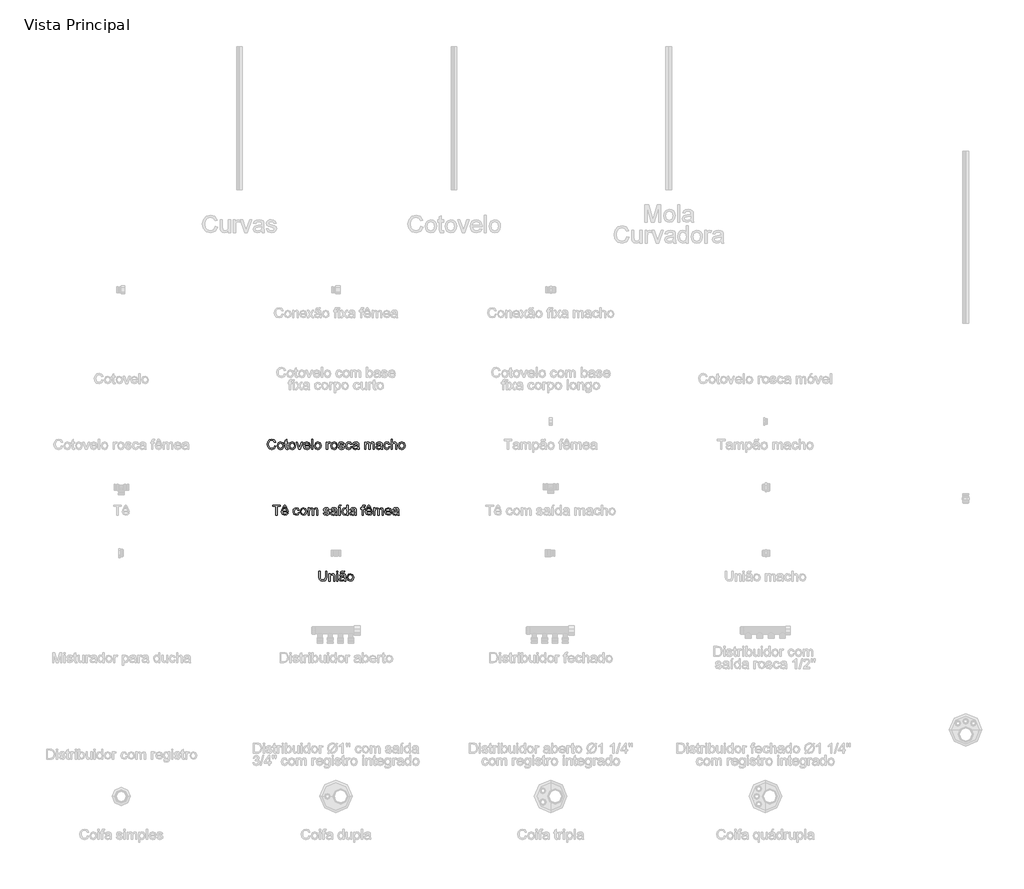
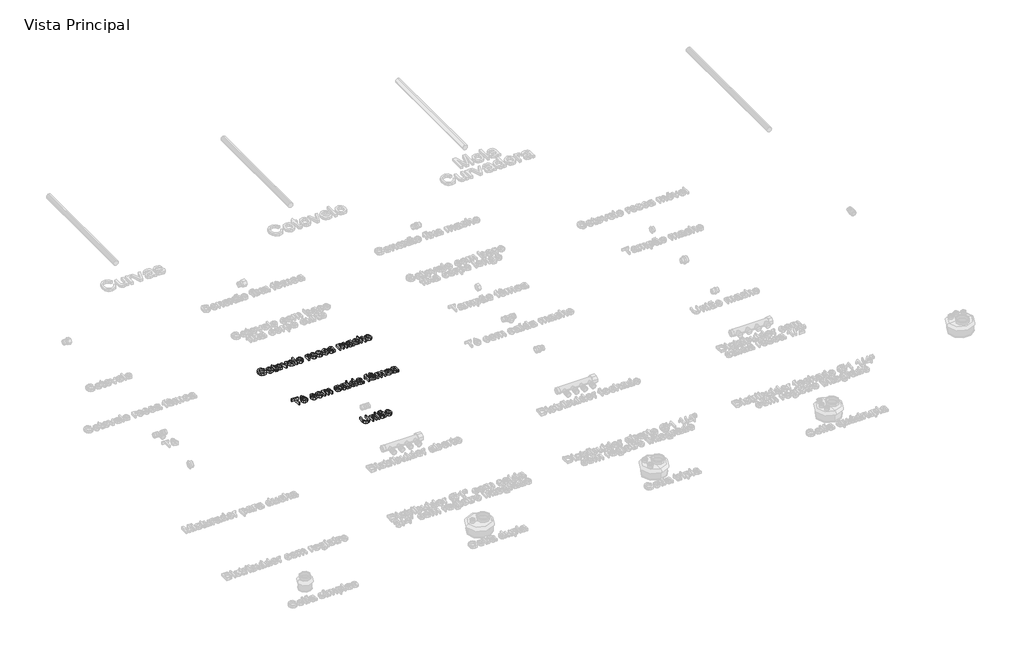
# One storey, part 6 of 12: 3 proxies.
"""IFC4 building model written with IfcOpenShell, lengths in millimetres."""

from ifc_helpers import new_model, si_unit, origin, origin_with_axes, place, context, project, spatial, polyline, outline, extrude, element, save

model = new_model("IFC4")

# Units and contexts
model_context = context("Model", 3, world=origin())
ifc_project = project(units=[si_unit("LENGTHUNIT", "METRE", prefix="MILLI")], contexts=[model_context])

# Site, building, storey
site = spatial("IfcSite", under=ifc_project)
building = spatial("IfcBuilding", under=site)
storey = spatial("IfcBuildingStorey", under=building, Name="Vista Principal", Elevation=0.0)

# Proxies
placement = place(None, origin())
element("IfcBuildingElementProxy", 1, Name="Legenda", ObjectType="Legenda", at=placement, inside=storey, context=model_context, shape_type="SweptSolid", body=[
    extrude(outline(polyline([(-545.117391, -474.518665), (-540.7224274, -475.6517416), (-545.9328628, -484.514632), (-555.1348177, -487.5662131), (-564.2809773, -485.2571405), (-569.645923, -478.5702721), (-571.4871724, -469.1708871), (-569.4055735, -459.6169917), (-563.4869653, -453.4236983), (-555.0403947, -451.3077637), (-546.2375917, -454.046032), (-541.2717979, -461.7543861), (-545.6667615, -462.8016235), (-549.272005, -457.3980501), (-555.212073, -455.7027273), (-562.0877874, -457.5826042), (-565.9720082, -462.6299452), (-567.0922089, -469.1623032), (-565.7659943, -476.7333146), (-561.637132, -481.5703497), (-555.5725973, -483.1712496), (-548.8471013, -480.9909356), (-545.117391, -474.518665)])), origin_with_axes(), (0.0, 0.0, 1.0), 10.0),
    extrude(outline(polyline([(-536.3274639, -474.1066372), (-532.5247903, -463.5055044), (-524.7821006, -460.6470613), (-516.4771645, -464.1278381), (-513.2539051, -473.7461128), (-514.6788347, -481.5660578), (-518.8291568, -485.9910651), (-524.7821006, -487.5662131), (-533.1385401, -484.0983122), (-536.3274639, -474.1066372)]), holes=[polyline([(-531.9325003, -474.0980533), (-529.8981129, -480.9093884), (-524.7821006, -483.1712496), (-519.6832561, -480.8965126), (-517.6488687, -473.9607107), (-519.696132, -467.303886), (-524.7821006, -465.0420248), (-529.8981129, -467.2953021), (-531.9325003, -474.0980533)])]), origin_with_axes(), (0.0, 0.0, 1.0), 10.0),
    extrude(outline(polyline([(-498.9702735, -483.3515117), (-498.4209031, -487.1456014), (-501.7085419, -487.5662131), (-505.3910406, -486.8365805), (-507.2279981, -484.9223679), (-507.7602007, -479.9351143), (-507.7602007, -465.5913953), (-511.0564233, -465.5913953), (-511.0564233, -461.1964317), (-507.7602007, -461.1964317), (-507.7602007, -454.9215911), (-503.3652371, -452.3378333), (-503.3652371, -461.1964317), (-498.9702735, -461.1964317), (-498.9702735, -465.5913953), (-503.3652371, -465.5913953), (-503.3652371, -479.8063556), (-503.1334714, -482.0725087), (-498.9702735, -483.3515117)])), origin_with_axes(), (0.0, 0.0, 1.0), 10.0),
    extrude(outline(polyline([(-495.6740509, -474.1066372), (-491.8713773, -463.5055044), (-484.1286876, -460.6470613), (-475.8237515, -464.1278381), (-472.6004921, -473.7461128), (-474.0254217, -481.5660578), (-478.1757438, -485.9910651), (-484.1286876, -487.5662131), (-492.4851271, -484.0983122), (-495.6740509, -474.1066372)]), holes=[polyline([(-491.2790873, -474.0980533), (-489.2446999, -480.9093884), (-484.1286876, -483.1712496), (-479.0298431, -480.8965126), (-476.9954557, -473.9607107), (-479.042719, -467.303886), (-484.1286876, -465.0420248), (-489.2446999, -467.2953021), (-491.2790873, -474.0980533)])]), origin_with_axes(), (0.0, 0.0, 1.0), 10.0),
    extrude(outline(polyline([(-461.3212301, -487.0168427), (-470.4030103, -461.1964317), (-465.7505294, -461.1964317), (-460.248241, -476.6646433), (-458.5915457, -481.8664947), (-456.9691861, -476.9564964), (-451.4325621, -461.1964317), (-446.7800812, -461.1964317), (-455.7502705, -487.0168427), (-461.3212301, -487.0168427)])), origin_with_axes(), (0.0, 0.0, 1.0), 10.0),
    extrude(outline(polyline([(-424.8567668, -479.3256564), (-420.5476423, -479.8750269), (-424.5777896, -485.5489935), (-432.0844217, -487.5662131), (-441.2091215, -484.0854363), (-444.5825994, -474.321235), (-441.1747858, -464.235137), (-432.3333552, -460.6470613), (-423.74515, -464.2265531), (-420.4102997, -474.2954833), (-440.1876358, -475.4800633), (-437.6596734, -481.1883656), (-431.9985826, -483.1712496), (-427.6894581, -482.2527708), (-424.8567668, -479.3256564)]), holes=[polyline([(-440.1876358, -471.0850997), (-424.8052633, -471.0850997), (-426.5649655, -467.102164), (-432.350523, -465.0420248), (-437.7626803, -466.6858442), (-440.1876358, -471.0850997)])]), origin_with_axes(), (0.0, 0.0, 1.0), 10.0),
    extrude(outline(polyline([(-416.0153362, -487.0168427), (-416.0153362, -451.8571341), (-411.6203726, -451.8571341), (-411.6203726, -487.0168427), (-416.0153362, -487.0168427)])), origin_with_axes(), (0.0, 0.0, 1.0), 10.0),
    extrude(outline(polyline([(-406.1266681, -474.1066372), (-402.3239946, -463.5055044), (-394.5813049, -460.6470613), (-386.2763688, -464.1278381), (-383.0531094, -473.7461128), (-384.478039, -481.5660578), (-388.628361, -485.9910651), (-394.5813049, -487.5662131), (-402.9377444, -484.0983122), (-406.1266681, -474.1066372)]), holes=[polyline([(-401.7317046, -474.0980533), (-399.6973171, -480.9093884), (-394.5813049, -483.1712496), (-389.4824604, -480.8965126), (-387.448073, -473.9607107), (-389.4953363, -467.303886), (-394.5813049, -465.0420248), (-399.6973171, -467.2953021), (-401.7317046, -474.0980533)])]), origin_with_axes(), (0.0, 0.0, 1.0), 10.0),
    extrude(outline(polyline([(-364.3745142, -487.0168427), (-364.3745142, -461.1964317), (-360.5289211, -461.1964317), (-360.5289211, -465.0162731), (-357.7992367, -461.4968687), (-355.0523845, -460.6470613), (-350.6402531, -462.0033196), (-352.1081022, -465.9433357), (-355.198311, -465.0420248), (-357.6833539, -465.9090001), (-359.2670859, -468.3124958), (-359.9795507, -473.4456759), (-359.9795507, -487.0168427), (-364.3745142, -487.0168427)])), origin_with_axes(), (0.0, 0.0, 1.0), 10.0),
    extrude(outline(polyline([(-348.9921417, -474.1066372), (-345.1894682, -463.5055044), (-337.4467785, -460.6470613), (-329.1418424, -464.1278381), (-325.918583, -473.7461128), (-327.3435126, -481.5660578), (-331.4938346, -485.9910651), (-337.4467785, -487.5662131), (-345.803218, -484.0983122), (-348.9921417, -474.1066372)]), holes=[polyline([(-344.5971782, -474.0980533), (-342.5627907, -480.9093884), (-337.4467785, -483.1712496), (-332.347934, -480.8965126), (-330.3135466, -473.9607107), (-332.3608099, -467.303886), (-337.4467785, -465.0420248), (-342.5627907, -467.2953021), (-344.5971782, -474.0980533)])]), origin_with_axes(), (0.0, 0.0, 1.0), 10.0),
    extrude(outline(polyline([(-322.6223603, -479.3256564), (-318.2273968, -478.776286), (-316.1930093, -482.038173), (-311.5319444, -483.1712496), (-307.0511417, -482.1325961), (-305.5918765, -479.6947647), (-307.0597257, -477.7204647), (-311.5834479, -476.4672133), (-318.201645, -474.3169431), (-321.0901318, -471.8061485), (-322.0729899, -468.2609923), (-321.2832699, -464.9862294), (-319.1287076, -462.4840187), (-316.3346439, -461.1835558), (-312.5534301, -460.6470613), (-307.2056522, -461.5097445), (-303.8064225, -463.8445689), (-302.2956538, -467.7888771), (-306.6906174, -468.3382475), (-308.3430207, -465.913292), (-312.2100736, -465.0420248), (-316.4161911, -465.8746644), (-317.6780263, -467.8146288), (-315.5148802, -470.0636141), (-311.7293744, -470.9992606), (-305.2785637, -473.0679837), (-302.2827779, -475.411392), (-301.1969129, -479.2312334), (-302.471624, -483.4373509), (-306.1498309, -486.488932), (-311.5920318, -487.5662131), (-319.2574663, -485.4889061), (-322.6223603, -479.3256564)])), origin_with_axes(), (0.0, 0.0, 1.0), 10.0),
    extrude(outline(polyline([(-279.7714655, -477.6775451), (-275.376502, -478.2269155), (-278.9044903, -485.0897542), (-285.8746278, -487.5662131), (-294.2053156, -484.1111881), (-297.3513198, -474.2010602), (-296.0079374, -466.900442), (-291.9134108, -462.2093335), (-285.9347152, -460.6470613), (-279.2521388, -462.7930396), (-275.9258724, -468.887618), (-280.320836, -469.4369884), (-282.3595154, -466.1450577), (-285.9003796, -465.0420248), (-290.9949321, -467.2137549), (-292.9563562, -474.0808855), (-291.0378516, -481.0123954), (-286.0205544, -483.1712496), (-281.8788162, -481.8235752), (-279.7714655, -477.6775451)])), origin_with_axes(), (0.0, 0.0, 1.0), 10.0),
    extrude(outline(polyline([(-255.0497955, -483.72062), (-259.3117084, -486.6992379), (-264.0199848, -487.5662131), (-270.4021242, -485.4803222), (-272.6296497, -480.1497121), (-271.7884262, -476.6732273), (-269.5780686, -474.1495568), (-266.5007357, -472.7074593), (-262.6980621, -472.046498), (-255.0755472, -470.5357293), (-256.2601272, -466.312444), (-261.1186221, -465.0420248), (-265.5650891, -465.8875403), (-267.6853157, -468.887618), (-272.0802793, -468.3382475), (-270.1789425, -464.0462909), (-266.3505172, -461.5312043), (-260.5520838, -460.6470613), (-255.2257657, -461.4281974), (-252.2171041, -463.3896215), (-250.8694297, -466.3725314), (-250.6548319, -470.2181245), (-250.6548319, -475.6860772), (-250.4316501, -483.321468), (-249.556091, -487.0168427), (-253.9510546, -487.0168427), (-255.0497955, -483.72062)]), holes=[polyline([(-255.0626713, -475.5530266), (-262.1401078, -476.2783672), (-265.9213215, -476.990832), (-267.6338122, -478.1496603), (-268.2346862, -479.8406912), (-266.9256394, -482.2184352), (-263.0843382, -483.1712496), (-258.6378712, -482.1197202), (-255.7708442, -479.5745899), (-255.0626713, -475.5530266)])]), origin_with_axes(), (0.0, 0.0, 1.0), 10.0),
    extrude(outline(polyline([(-230.8774958, -487.0168427), (-230.8774958, -461.1964317), (-226.4825323, -461.1964317), (-226.4825323, -465.4454688), (-223.4609948, -461.9646919), (-219.1604543, -460.6470613), (-214.7569068, -461.9904437), (-212.3362433, -465.7544896), (-204.5763857, -460.6470613), (-198.8294558, -462.7715798), (-196.8165282, -469.3168136), (-196.8165282, -487.0168427), (-201.2114917, -487.0168427), (-201.2114917, -471.2052745), (-201.6192276, -467.5356516), (-203.0956607, -465.7287379), (-205.6064553, -465.0420248), (-209.9284556, -466.801727), (-211.6495302, -472.441358), (-211.6495302, -487.0168427), (-216.0444938, -487.0168427), (-216.0444938, -470.7159915), (-217.0616875, -466.4583705), (-220.3965378, -465.0420248), (-223.6498409, -465.9862553), (-225.812987, -468.7502753), (-226.4825323, -473.9950463), (-226.4825323, -487.0168427), (-230.8774958, -487.0168427)])), origin_with_axes(), (0.0, 0.0, 1.0), 10.0),
    extrude(outline(polyline([(-173.7429694, -483.72062), (-178.0048823, -486.6992379), (-182.7131587, -487.5662131), (-189.0952982, -485.4803222), (-191.3228237, -480.1497121), (-190.4816002, -476.6732273), (-188.2712425, -474.1495568), (-185.1939097, -472.7074593), (-181.3912361, -472.046498), (-173.7687212, -470.5357293), (-174.9533012, -466.312444), (-179.8117961, -465.0420248), (-184.2582631, -465.8875403), (-186.3784897, -468.887618), (-190.7734533, -468.3382475), (-188.8721165, -464.0462909), (-185.0436912, -461.5312043), (-179.2452578, -460.6470613), (-173.9189396, -461.4281974), (-170.9102781, -463.3896215), (-169.5626037, -466.3725314), (-169.3480059, -470.2181245), (-169.3480059, -475.6860772), (-169.1248241, -483.321468), (-168.249265, -487.0168427), (-172.6442285, -487.0168427), (-173.7429694, -483.72062)]), holes=[polyline([(-173.7558453, -475.5530266), (-180.8332817, -476.2783672), (-184.6144955, -476.990832), (-186.3269862, -478.1496603), (-186.9278601, -479.8406912), (-185.6188134, -482.2184352), (-181.7775122, -483.1712496), (-177.3310451, -482.1197202), (-174.4640181, -479.5745899), (-173.7558453, -475.5530266)])]), origin_with_axes(), (0.0, 0.0, 1.0), 10.0),
    extrude(outline(polyline([(-146.8238176, -477.6775451), (-142.428854, -478.2269155), (-145.9568423, -485.0897542), (-152.9269799, -487.5662131), (-161.2576676, -484.1111881), (-164.4036718, -474.2010602), (-163.0602894, -466.900442), (-158.9657628, -462.2093335), (-152.9870673, -460.6470613), (-146.3044908, -462.7930396), (-142.9782244, -468.887618), (-147.373188, -469.4369884), (-149.4118674, -466.1450577), (-152.9527316, -465.0420248), (-158.0472841, -467.2137549), (-160.0087083, -474.0808855), (-158.0902037, -481.0123954), (-153.0729064, -483.1712496), (-148.9311683, -481.8235752), (-146.8238176, -477.6775451)])), origin_with_axes(), (0.0, 0.0, 1.0), 10.0),
    extrude(outline(polyline([(-138.5832609, -487.0168427), (-138.5832609, -451.8571341), (-134.1882973, -451.8571341), (-134.1882973, -464.7845074), (-126.5400306, -460.6470613), (-121.6042805, -461.7758459), (-118.6084948, -464.8960983), (-117.7071839, -470.6730719), (-117.7071839, -487.0168427), (-122.1021475, -487.0168427), (-122.1021475, -471.1280193), (-123.5013253, -466.4927062), (-127.4670933, -465.0420248), (-131.0680448, -466.0205909), (-133.4715405, -468.6730201), (-134.1882973, -473.2997494), (-134.1882973, -487.0168427), (-138.5832609, -487.0168427)])), origin_with_axes(), (0.0, 0.0, 1.0), 10.0),
    extrude(outline(polyline([(-112.7628499, -474.1066372), (-108.9601763, -463.5055044), (-101.2174866, -460.6470613), (-92.9125506, -464.1278381), (-89.6892912, -473.7461128), (-91.1142208, -481.5660578), (-95.2645428, -485.9910651), (-101.2174866, -487.5662131), (-109.5739261, -484.0983122), (-112.7628499, -474.1066372)]), holes=[polyline([(-108.3678863, -474.0980533), (-106.3334989, -480.9093884), (-101.2174866, -483.1712496), (-96.1186422, -480.8965126), (-94.0842547, -473.9607107), (-96.131518, -467.303886), (-101.2174866, -465.0420248), (-106.3334989, -467.2953021), (-108.3678863, -474.0980533)])]), origin_with_axes(), (0.0, 0.0, 1.0), 10.0),
])
element("IfcBuildingElementProxy", 2, Name="Legenda", ObjectType="Legenda", at=placement, inside=storey, context=model_context, shape_type="SweptSolid", body=[
    extrude(outline(polyline([(-540.7224274, -717.0168427), (-540.7224274, -686.2520977), (-552.2592068, -686.2520977), (-552.2592068, -681.8571341), (-524.7906845, -681.8571341), (-524.7906845, -686.2520977), (-536.3274639, -686.2520977), (-536.3274639, -717.0168427), (-540.7224274, -717.0168427)])), origin_with_axes(), (0.0, 0.0, 1.0), 10.0),
    extrude(outline(polyline([(-509.9576825, -684.0546159), (-512.4298495, -688.4495795), (-516.824813, -688.4495795), (-512.1551642, -681.8571341), (-507.7602007, -681.8571341), (-502.5411814, -688.4495795), (-506.936145, -688.4495795), (-509.9576825, -684.0546159)])), origin_with_axes(), (0.0, 0.0, 1.0), 10.0),
    extrude(outline(polyline([(-502.3179997, -709.3256564), (-498.0088753, -709.8750269), (-502.0390225, -715.5489935), (-509.5456546, -717.5662131), (-518.6703544, -714.0854363), (-522.0438323, -704.321235), (-518.6360187, -694.235137), (-509.7945881, -690.6470613), (-501.2063829, -694.2265531), (-497.8715326, -704.2954833), (-517.6488687, -705.4800633), (-515.1209063, -711.1883656), (-509.4598155, -713.1712496), (-505.1506911, -712.2527708), (-502.3179997, -709.3256564)]), holes=[polyline([(-517.6488687, -701.0850997), (-502.2664962, -701.0850997), (-504.0261984, -697.102164), (-509.8117559, -695.0420248), (-515.2239132, -696.6858442), (-517.6488687, -701.0850997)])]), origin_with_axes(), (0.0, 0.0, 1.0), 10.0),
    extrude(outline(polyline([(-463.2611945, -707.6775451), (-458.866231, -708.2269155), (-462.3942193, -715.0897542), (-469.3643568, -717.5662131), (-477.6950446, -714.1111881), (-480.8410488, -704.2010602), (-479.4976664, -696.900442), (-475.4031398, -692.2093335), (-469.4244442, -690.6470613), (-462.7418678, -692.7930396), (-459.4156014, -698.887618), (-463.810565, -699.4369884), (-465.8492444, -696.1450577), (-469.3901086, -695.0420248), (-474.4846611, -697.2137549), (-476.4460852, -704.0808855), (-474.5275806, -711.0123954), (-469.5102834, -713.1712496), (-465.3685452, -711.8235752), (-463.2611945, -707.6775451)])), origin_with_axes(), (0.0, 0.0, 1.0), 10.0),
    extrude(outline(polyline([(-456.1193787, -704.1066372), (-452.3167052, -693.5055044), (-444.5740155, -690.6470613), (-436.2690794, -694.1278381), (-433.04582, -703.7461128), (-434.4707496, -711.5660578), (-438.6210716, -715.9910651), (-444.5740155, -717.5662131), (-452.930455, -714.0983122), (-456.1193787, -704.1066372)]), holes=[polyline([(-451.7244152, -704.0980533), (-449.6900277, -710.9093884), (-444.5740155, -713.1712496), (-439.475171, -710.8965126), (-437.4407836, -703.9607107), (-439.4880469, -697.303886), (-444.5740155, -695.0420248), (-449.6900277, -697.2953021), (-451.7244152, -704.0980533)])]), origin_with_axes(), (0.0, 0.0, 1.0), 10.0),
    extrude(outline(polyline([(-428.101486, -717.0168427), (-428.101486, -691.1964317), (-423.7065224, -691.1964317), (-423.7065224, -695.4454688), (-420.684985, -691.9646919), (-416.3844444, -690.6470613), (-411.980897, -691.9904437), (-409.5602334, -695.7544896), (-401.8003759, -690.6470613), (-396.053446, -692.7715798), (-394.0405183, -699.3168136), (-394.0405183, -717.0168427), (-398.4354819, -717.0168427), (-398.4354819, -701.2052745), (-398.8432178, -697.5356516), (-400.3196508, -695.7287379), (-402.8304455, -695.0420248), (-407.1524458, -696.801727), (-408.8735204, -702.441358), (-408.8735204, -717.0168427), (-413.2684839, -717.0168427), (-413.2684839, -700.7159915), (-414.2856777, -696.4583705), (-417.6205279, -695.0420248), (-420.8738311, -695.9862553), (-423.0369772, -698.7502753), (-423.7065224, -703.9950463), (-423.7065224, -717.0168427), (-428.101486, -717.0168427)])), origin_with_axes(), (0.0, 0.0, 1.0), 10.0),
    extrude(outline(polyline([(-375.3619232, -709.3256564), (-370.9669596, -708.776286), (-368.9325722, -712.038173), (-364.2715073, -713.1712496), (-359.7907046, -712.1325961), (-358.3314393, -709.6947647), (-359.7992885, -707.7204647), (-364.3230108, -706.4672133), (-370.9412078, -704.3169431), (-373.8296946, -701.8061485), (-374.8125527, -698.2609923), (-374.0228327, -694.9862294), (-371.8682705, -692.4840187), (-369.0742067, -691.1835558), (-365.2929929, -690.6470613), (-359.945215, -691.5097445), (-356.5459854, -693.8445689), (-355.0352166, -697.7888771), (-359.4301802, -698.3382475), (-361.0825835, -695.913292), (-364.9496364, -695.0420248), (-369.1557539, -695.8746644), (-370.4175891, -697.8146288), (-368.254443, -700.0636141), (-364.4689373, -700.9992606), (-358.0181265, -703.0679837), (-355.0223408, -705.411392), (-353.9364758, -709.2312334), (-355.2111869, -713.4373509), (-358.8893937, -716.488932), (-364.3315947, -717.5662131), (-371.9970292, -715.4889061), (-375.3619232, -709.3256564)])), origin_with_axes(), (0.0, 0.0, 1.0), 10.0),
    extrude(outline(polyline([(-332.5110284, -713.72062), (-336.7729413, -716.6992379), (-341.4812177, -717.5662131), (-347.8633572, -715.4803222), (-350.0908826, -710.1497121), (-349.2496591, -706.6732273), (-347.0393015, -704.1495568), (-343.9619686, -702.7074593), (-340.159295, -702.046498), (-332.5367801, -700.5357293), (-333.7213601, -696.312444), (-338.579855, -695.0420248), (-343.0263221, -695.8875403), (-345.1465486, -698.887618), (-349.5415122, -698.3382475), (-347.6401754, -694.0462909), (-343.8117501, -691.5312043), (-338.0133167, -690.6470613), (-332.6869986, -691.4281974), (-329.678337, -693.3896215), (-328.3306626, -696.3725314), (-328.1160648, -700.2181245), (-328.1160648, -705.6860772), (-327.892883, -713.321468), (-327.0173239, -717.0168427), (-331.4122875, -717.0168427), (-332.5110284, -713.72062)]), holes=[polyline([(-332.5239042, -705.5530266), (-339.6013407, -706.2783672), (-343.3825544, -706.990832), (-345.0950451, -708.1496603), (-345.6959191, -709.8406912), (-344.3868723, -712.2184352), (-340.5455711, -713.1712496), (-336.0991041, -712.1197202), (-333.2320771, -709.5745899), (-332.5239042, -705.5530266)])]), origin_with_axes(), (0.0, 0.0, 1.0), 10.0),
    extrude(outline(polyline([(-322.0729899, -688.4495795), (-318.7767672, -681.8571341), (-313.2830627, -681.8571341), (-318.7767672, -688.4495795), (-322.0729899, -688.4495795)])), origin_with_axes(), (0.0, 0.0, 1.0), 10.0),
    extrude(outline(polyline([(-320.974249, -717.0168427), (-320.974249, -691.1964317), (-316.5792854, -691.1964317), (-316.5792854, -717.0168427), (-320.974249, -717.0168427)])), origin_with_axes(), (0.0, 0.0, 1.0), 10.0),
    extrude(outline(polyline([(-292.4069858, -717.0168427), (-292.4069858, -712.8708126), (-299.3342038, -717.5662131), (-304.7764047, -715.8665983), (-308.6219979, -711.1239863), (-309.9868401, -704.1323889), (-308.7292968, -697.1364997), (-304.9609589, -692.3209243), (-299.3513716, -690.6470613), (-295.2997645, -691.8445172), (-292.4069858, -694.9561857), (-292.4069858, -681.8571341), (-288.0120222, -681.8571341), (-288.0120222, -717.0168427), (-292.4069858, -717.0168427)]), holes=[polyline([(-305.5918765, -704.1152211), (-303.6089925, -710.9179723), (-298.9307598, -713.1712496), (-294.3083226, -711.0209793), (-292.4069858, -704.4499937), (-294.3426582, -697.3167618), (-299.111022, -695.0420248), (-303.7377512, -697.2266308), (-305.5918765, -704.1152211)])]), origin_with_axes(), (0.0, 0.0, 1.0), 10.0),
    extrude(outline(polyline([(-264.9384635, -713.72062), (-269.2003764, -716.6992379), (-273.9086528, -717.5662131), (-280.2907923, -715.4803222), (-282.5183178, -710.1497121), (-281.6770943, -706.6732273), (-279.4667366, -704.1495568), (-276.3894037, -702.7074593), (-272.5867302, -702.046498), (-264.9642152, -700.5357293), (-266.1487952, -696.312444), (-271.0072901, -695.0420248), (-275.4537572, -695.8875403), (-277.5739837, -698.887618), (-281.9689473, -698.3382475), (-280.0676105, -694.0462909), (-276.2391852, -691.5312043), (-270.4407519, -690.6470613), (-265.1144337, -691.4281974), (-262.1057721, -693.3896215), (-260.7580977, -696.3725314), (-260.5434999, -700.2181245), (-260.5434999, -705.6860772), (-260.3203182, -713.321468), (-259.444759, -717.0168427), (-263.8397226, -717.0168427), (-264.9384635, -713.72062)]), holes=[polyline([(-264.9513394, -705.5530266), (-272.0287758, -706.2783672), (-275.8099896, -706.990832), (-277.5224803, -708.1496603), (-278.1233542, -709.8406912), (-276.8143074, -712.2184352), (-272.9730063, -713.1712496), (-268.5265392, -712.1197202), (-265.6595122, -709.5745899), (-264.9513394, -705.5530266)])]), origin_with_axes(), (0.0, 0.0, 1.0), 10.0),
    extrude(outline(polyline([(-239.667423, -717.0168427), (-239.667423, -695.5913953), (-243.5130161, -695.5913953), (-243.5130161, -691.1964317), (-239.667423, -691.1964317), (-239.667423, -688.595506), (-239.2038916, -684.9301751), (-236.9549064, -682.3120815), (-232.5256072, -681.3077637), (-228.5169197, -681.7884628), (-229.1607132, -685.9087412), (-231.6929676, -685.7027273), (-234.4612796, -686.4323599), (-235.2724594, -689.1534604), (-235.2724594, -691.1964317), (-230.3281254, -691.1964317), (-230.3281254, -695.5913953), (-235.2724594, -695.5913953), (-235.2724594, -717.0168427), (-239.667423, -717.0168427)])), origin_with_axes(), (0.0, 0.0, 1.0), 10.0),
    extrude(outline(polyline([(-216.0444938, -684.0546159), (-218.5166608, -688.4495795), (-222.9116244, -688.4495795), (-218.2419756, -681.8571341), (-213.847012, -681.8571341), (-208.6279928, -688.4495795), (-213.0229563, -688.4495795), (-216.0444938, -684.0546159)])), origin_with_axes(), (0.0, 0.0, 1.0), 10.0),
    extrude(outline(polyline([(-208.404811, -709.3256564), (-204.0956866, -709.8750269), (-208.1258338, -715.5489935), (-215.6324659, -717.5662131), (-224.7571657, -714.0854363), (-228.1306436, -704.321235), (-224.72283, -694.235137), (-215.8813994, -690.6470613), (-207.2931942, -694.2265531), (-203.958344, -704.2954833), (-223.73568, -705.4800633), (-221.2077176, -711.1883656), (-215.5466268, -713.1712496), (-211.2375024, -712.2527708), (-208.404811, -709.3256564)]), holes=[polyline([(-223.73568, -701.0850997), (-208.3533075, -701.0850997), (-210.1130097, -697.102164), (-215.8985673, -695.0420248), (-221.3107245, -696.6858442), (-223.73568, -701.0850997)])]), origin_with_axes(), (0.0, 0.0, 1.0), 10.0),
    extrude(outline(polyline([(-199.5633804, -717.0168427), (-199.5633804, -691.1964317), (-195.1684168, -691.1964317), (-195.1684168, -695.4454688), (-192.1468794, -691.9646919), (-187.8463388, -690.6470613), (-183.4427914, -691.9904437), (-181.0221278, -695.7544896), (-173.2622703, -690.6470613), (-167.5153404, -692.7715798), (-165.5024127, -699.3168136), (-165.5024127, -717.0168427), (-169.8973763, -717.0168427), (-169.8973763, -701.2052745), (-170.3051122, -697.5356516), (-171.7815453, -695.7287379), (-174.2923399, -695.0420248), (-178.6143402, -696.801727), (-180.3354148, -702.441358), (-180.3354148, -717.0168427), (-184.7303783, -717.0168427), (-184.7303783, -700.7159915), (-185.7475721, -696.4583705), (-189.0824223, -695.0420248), (-192.3357255, -695.9862553), (-194.4988716, -698.7502753), (-195.1684168, -703.9950463), (-195.1684168, -717.0168427), (-199.5633804, -717.0168427)])), origin_with_axes(), (0.0, 0.0, 1.0), 10.0),
    extrude(outline(polyline([(-140.8322461, -709.3256564), (-136.5231217, -709.8750269), (-140.553269, -715.5489935), (-148.0599011, -717.5662131), (-157.1846008, -714.0854363), (-160.5580787, -704.321235), (-157.1502652, -694.235137), (-148.3088346, -690.6470613), (-139.7206294, -694.2265531), (-136.3857791, -704.2954833), (-156.1631151, -705.4800633), (-153.6351527, -711.1883656), (-147.9740619, -713.1712496), (-143.6649375, -712.2527708), (-140.8322461, -709.3256564)]), holes=[polyline([(-156.1631151, -701.0850997), (-140.7807427, -701.0850997), (-142.5404449, -697.102164), (-148.3260024, -695.0420248), (-153.7381597, -696.6858442), (-156.1631151, -701.0850997)])]), origin_with_axes(), (0.0, 0.0, 1.0), 10.0),
    extrude(outline(polyline([(-115.5097021, -713.72062), (-119.771615, -716.6992379), (-124.4798914, -717.5662131), (-130.8620309, -715.4803222), (-133.0895564, -710.1497121), (-132.2483329, -706.6732273), (-130.0379753, -704.1495568), (-126.9606424, -702.7074593), (-123.1579688, -702.046498), (-115.5354539, -700.5357293), (-116.7200339, -696.312444), (-121.5785288, -695.0420248), (-126.0249958, -695.8875403), (-128.1452224, -698.887618), (-132.540186, -698.3382475), (-130.6388492, -694.0462909), (-126.8104239, -691.5312043), (-121.0119905, -690.6470613), (-115.6856724, -691.4281974), (-112.6770108, -693.3896215), (-111.3293364, -696.3725314), (-111.1147386, -700.2181245), (-111.1147386, -705.6860772), (-110.8915568, -713.321468), (-110.0159977, -717.0168427), (-114.4109612, -717.0168427), (-115.5097021, -713.72062)]), holes=[polyline([(-115.522578, -705.5530266), (-122.6000145, -706.2783672), (-126.3812282, -706.990832), (-128.0937189, -708.1496603), (-128.6945928, -709.8406912), (-127.3855461, -712.2184352), (-123.5442449, -713.1712496), (-119.0977779, -712.1197202), (-116.2307508, -709.5745899), (-115.522578, -705.5530266)])]), origin_with_axes(), (0.0, 0.0, 1.0), 10.0),
])
element("IfcBuildingElementProxy", 3, Name="Legenda", ObjectType="Legenda", at=placement, inside=storey, context=model_context, shape_type="SweptSolid", body=[
    extrude(outline(polyline([(-367.3960517, -911.8571341), (-363.0010881, -911.8571341), (-363.0010881, -932.1409211), (-364.1942521, -940.5488641), (-368.4947926, -945.6133729), (-376.6495101, -947.5662131), (-384.679761, -945.8665983), (-389.1348119, -940.9437241), (-390.4696104, -932.1409211), (-390.4696104, -911.8571341), (-386.0746469, -911.8571341), (-386.0746469, -931.9864106), (-385.2076716, -938.6861549), (-382.2290537, -942.0038374), (-377.061538, -943.1712496), (-369.6192852, -940.8621769), (-367.3960517, -931.9864106), (-367.3960517, -911.8571341)])), origin_with_axes(), (0.0, 0.0, 1.0), 10.0),
    extrude(outline(polyline([(-355.8592723, -947.0168427), (-355.8592723, -921.1964317), (-351.4643087, -921.1964317), (-351.4643087, -924.8016753), (-343.5156051, -920.6470613), (-339.3652831, -921.4839928), (-336.5325917, -923.6814746), (-335.214961, -926.9133179), (-334.9831954, -931.162355), (-334.9831954, -947.0168427), (-339.3781589, -947.0168427), (-339.3781589, -931.754645), (-339.8846098, -927.8661323), (-341.6743557, -925.8102851), (-344.6916012, -925.0420248), (-349.459965, -926.7673914), (-351.4643087, -933.3169172), (-351.4643087, -947.0168427), (-355.8592723, -947.0168427)])), origin_with_axes(), (0.0, 0.0, 1.0), 10.0),
    extrude(outline(polyline([(-328.9401205, -947.0168427), (-328.9401205, -921.1964317), (-324.5451569, -921.1964317), (-324.5451569, -947.0168427), (-328.9401205, -947.0168427)])), origin_with_axes(), (0.0, 0.0, 1.0), 10.0),
    extrude(outline(polyline([(-328.9401205, -916.2520977), (-328.9401205, -911.8571341), (-324.5451569, -911.8571341), (-324.5451569, -916.2520977), (-328.9401205, -916.2520977)])), origin_with_axes(), (0.0, 0.0, 1.0), 10.0),
    extrude(outline(polyline([(-301.4715981, -943.72062), (-305.7335111, -946.6992379), (-310.4417875, -947.5662131), (-316.8239269, -945.4803222), (-319.0514524, -940.1497121), (-318.2102289, -936.6732273), (-315.9998713, -934.1495568), (-312.9225384, -932.7074593), (-309.1198648, -932.046498), (-301.4973499, -930.5357293), (-302.6819299, -926.312444), (-307.5404248, -925.0420248), (-311.9868918, -925.8875403), (-314.1071184, -928.887618), (-318.502082, -928.3382475), (-316.6007452, -924.0462909), (-312.7723199, -921.5312043), (-306.9738865, -920.6470613), (-301.6475684, -921.4281974), (-298.6389068, -923.3896215), (-297.2912324, -926.3725314), (-297.0766346, -930.2181245), (-297.0766346, -935.6860772), (-296.8534528, -943.321468), (-295.9778937, -947.0168427), (-300.3728573, -947.0168427), (-301.4715981, -943.72062)]), holes=[polyline([(-301.484474, -935.5530266), (-308.5619105, -936.2783672), (-312.3431242, -936.990832), (-314.0556149, -938.1496603), (-314.6564889, -939.8406912), (-313.3474421, -942.2184352), (-309.5061409, -943.1712496), (-305.0596739, -942.1197202), (-302.1926469, -939.5745899), (-301.484474, -935.5530266)])]), origin_with_axes(), (0.0, 0.0, 1.0), 10.0),
    extrude(outline(polyline([(-315.2058593, -918.4495795), (-313.8410171, -913.651172), (-310.3473644, -911.8571341), (-306.82796, -913.2734798), (-305.05109, -914.0546159), (-303.6690799, -911.8571341), (-299.8234868, -911.8571341), (-301.2183727, -916.8014681), (-304.5875586, -918.4495795), (-308.0640435, -917.110489), (-309.9181688, -916.2520977), (-311.3602662, -918.4495795), (-315.2058593, -918.4495795)])), origin_with_axes(), (0.0, 0.0, 1.0), 10.0),
    extrude(outline(polyline([(-292.1323006, -934.1066372), (-288.329627, -923.5055044), (-280.5869373, -920.6470613), (-272.2820012, -924.1278381), (-269.0587418, -933.7461128), (-270.4836714, -941.5660578), (-274.6339935, -945.9910651), (-280.5869373, -947.5662131), (-288.9433768, -944.0983122), (-292.1323006, -934.1066372)]), holes=[polyline([(-287.737337, -934.0980533), (-285.7029496, -940.9093884), (-280.5869373, -943.1712496), (-275.4880928, -940.8965126), (-273.4537054, -933.9607107), (-275.5009687, -927.303886), (-280.5869373, -925.0420248), (-285.7029496, -927.2953021), (-287.737337, -934.0980533)])]), origin_with_axes(), (0.0, 0.0, 1.0), 10.0),
])

save(model, "model.ifc")
